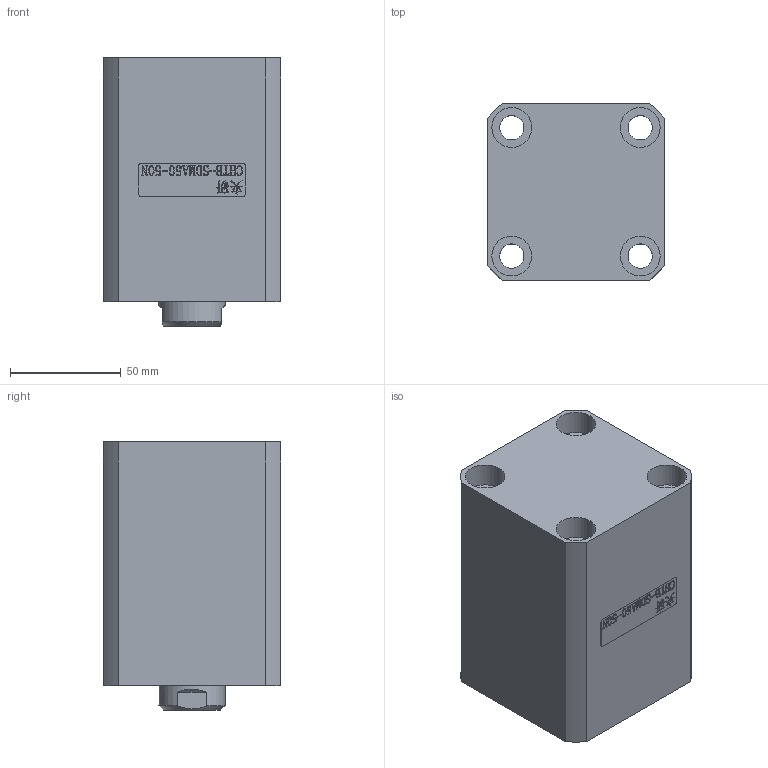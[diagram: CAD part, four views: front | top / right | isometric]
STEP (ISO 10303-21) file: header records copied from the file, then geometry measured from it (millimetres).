
FILE_DESCRIPTION(/* description */ (''),/* implementation_level */ '2;1');
FILE_NAME(/* name */ 'CHTB-SDMA50-50N.stp',/* time_stamp */ '2022-04-29T18:19:31+08:00',/* author */ (''),/* organization */ (''),/* preprocessor_version */ 'ST-DEVELOPER v16.7',/* originating_system */ 'SIEMENS PLM Software NX 12.0',/* authorisation */ '');
FILE_SCHEMA (('AUTOMOTIVE_DESIGN { 1 0 10303 214 3 1 1 1 }'));
Length unit declared in the file: millimetre
Products named in the file (1): CHTB-SDMA50-50N
Bounding box: 80 x 80 x 121 mm (x, y, z)
Volume: 568915.7 mm3; surface area: 114221.9 mm2
Topology: 5 solids, 5 shells, 501 faces, 1337 edges, 898 vertices
Faces by surface type: plane 313, extrusion 87, cylinder 55, bspline 20, cone 15, torus 11
Full cylindrical faces by diameter (mm): 4 x6, 5 x2, 9 x2, 11 x4, 18 x8, 19 x1, 30 x2, 39 x1, 44 x2, 46 x1, 50 x5, 55 x8, 59 x1
Entity records: 26394 total; most frequent: CARTESIAN_POINT 12389, ORIENTED_EDGE 2510, DIRECTION 1924, EDGE_CURVE 1255, VECTOR 922, VERTEX_POINT 885, LINE 835, EDGE_LOOP 619
